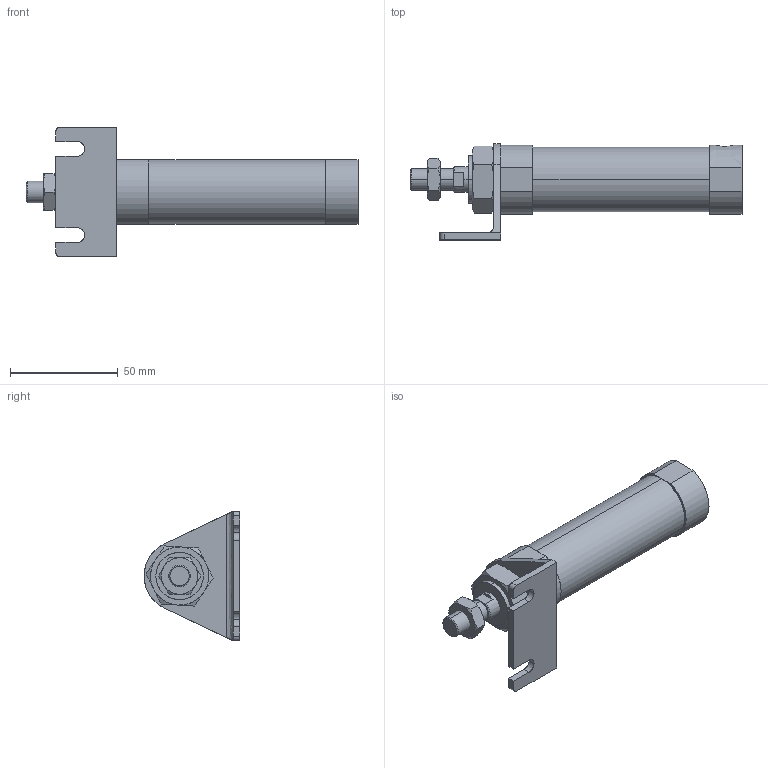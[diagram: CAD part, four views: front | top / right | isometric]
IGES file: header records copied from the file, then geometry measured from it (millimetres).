
Start section: SolidWorks IGES file using analytic representation for surfaces
Global section: file name: C:\Users\Toshiba\Desktop\JGND1-25-25-L.IGS; native system: SolidWorks 2014; preprocessor: SolidWorks 2014; author: Toshiba; date: 160804.101606; units: millimetre
Bounding box: 154 x 44.5 x 60 mm (x, y, z)
Surface area: 24515.5 mm2 (no closed solid volume)
Topology: 0 solids, 0 shells, 111 faces, 1846 edges, 1844 vertices
Faces by surface type: bspline 74, revolution 37
